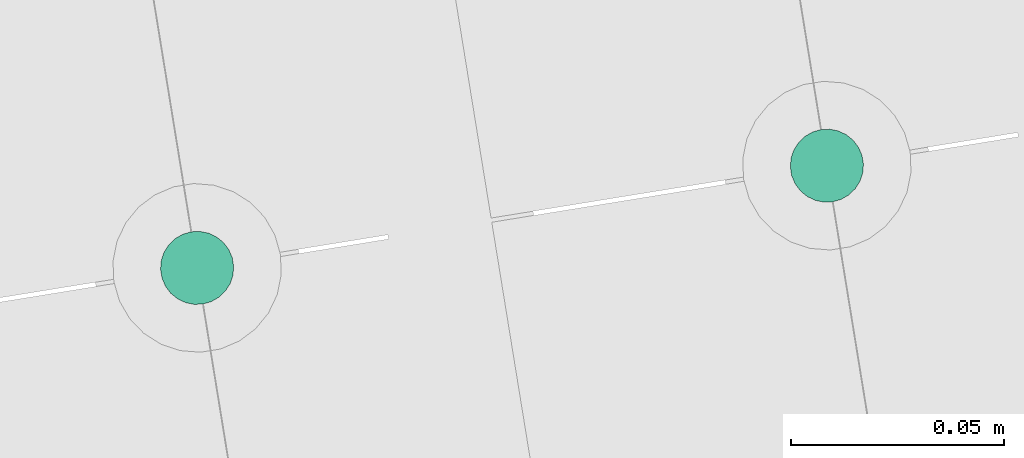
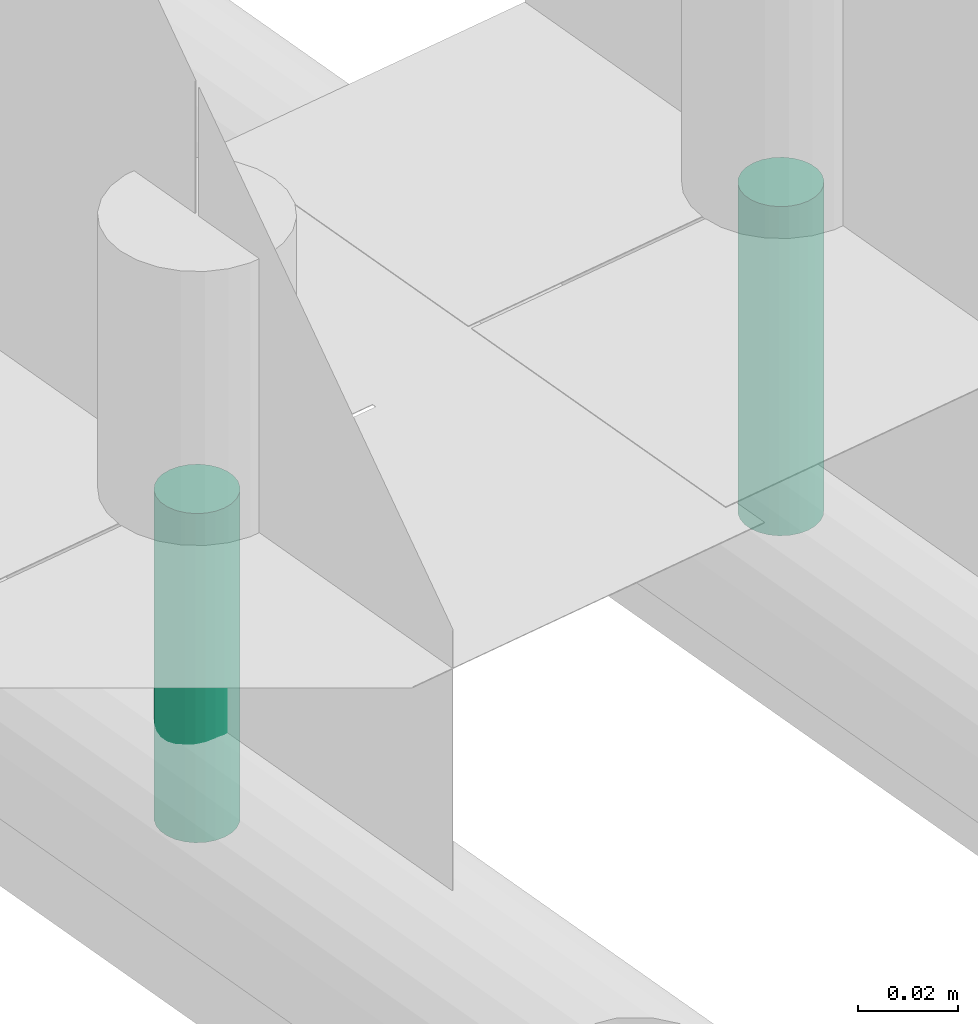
# One storey, part 8 of 10: 2 flow segments.
"""IFC2X3 building model written with IfcOpenShell, lengths in millimetres."""

from ifc_helpers import new_model, entity, si_unit, converted_unit, derived_unit, direction, frame, origin, origin_with_axes, origin_2d_with_axis, place, context, subcontext, project, spatial, circle, extrude, type_object, element, save


model = new_model("IFC2X3")

# Units and contexts
plan_context = context("Plan", 3, precision=1e-05, world=origin_with_axes())
model_context = context("Model", 3, precision=0.01, world=origin(), true_north=direction((6.12323399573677e-17, 1.0)))
body_context = subcontext(model_context, "Body", "Model", "MODEL_VIEW")
ifc_project = project(units=[converted_unit("PLANEANGLEUNIT", "DEGREE", entity("IfcPositiveLengthMeasure", 0.0174532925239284), si_unit("PLANEANGLEUNIT", "RADIAN"), dimensions=[0, 0, 0, 0, 0, 0, 0]), si_unit("AREAUNIT", "SQUARE_METRE"), si_unit("LENGTHUNIT", "METRE", prefix="MILLI"), si_unit("MASSUNIT", "GRAM", prefix="KILO"), si_unit("POWERUNIT", "WATT"), si_unit("PRESSUREUNIT", "PASCAL", prefix="KILO"), si_unit("FORCEUNIT", "NEWTON", prefix="KILO"), si_unit("ELECTRICVOLTAGEUNIT", "VOLT"), si_unit("ELECTRICCURRENTUNIT", "AMPERE"), si_unit("THERMODYNAMICTEMPERATUREUNIT", "DEGREE_CELSIUS"), si_unit("TIMEUNIT", "SECOND"), si_unit("VOLUMEUNIT", "CUBIC_METRE"), derived_unit("LINEARVELOCITYUNIT", [(si_unit("LENGTHUNIT", "METRE"), 1), (si_unit("TIMEUNIT", "SECOND"), -1)]), derived_unit("VOLUMETRICFLOWRATEUNIT", [(si_unit("VOLUMEUNIT", "CUBIC_METRE"), 1), (si_unit("TIMEUNIT", "SECOND"), -1)]), derived_unit("THERMALTRANSMITTANCEUNIT", [(si_unit("POWERUNIT", "WATT"), 1), (si_unit("THERMODYNAMICTEMPERATUREUNIT", "KELVIN"), -1), (si_unit("AREAUNIT", "SQUARE_METRE"), -1)]), derived_unit("SOUNDPRESSUREUNIT", [(si_unit("PRESSUREUNIT", "PASCAL"), 1)])], contexts=[model_context, plan_context])

# Site, building, storey
site_placement = place(None, frame((-0.00071070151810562, 0.00438415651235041, 0.0), z_axis=(0.0, 0.0, 1.0), x_axis=(-0.160236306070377, 0.987078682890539, 0.0)))
site = spatial("IfcSite", under=ifc_project, at=site_placement, Name="Default", CompositionType="ELEMENT")
building_placement = place(site_placement, origin_with_axes())
building = spatial("IfcBuilding", under=site, at=building_placement, CompositionType="ELEMENT")
storey_placement = place(building_placement, frame((0.0, 0.0, 58999.9999999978), z_axis=(0.0, 0.0, 1.0), x_axis=(1.0, 0.0, 0.0)))
storey = spatial("IfcBuildingStorey", under=building, at=storey_placement, Name="Nivå F", CompositionType="ELEMENT", Elevation=58999.9999999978)

# Flow segments
pipe_segment_type = type_object("IfcPipeSegmentType", Name="Pipe Types:Stålrør normaltykke", PredefinedType="NOTDEFINED")
flow_segment_1_placement = place(storey_placement, origin_with_axes())
element("IfcFlowSegment", 1, at=flow_segment_1_placement, inside=storey, type_object=pipe_segment_type, Name="Pipe Types:Stålrør normaltykke", ObjectType="Pipe Types:Stålrør normaltykke", context=body_context, shape_type="SweptSolid", body=[
    extrude(circle(Radius=8.60000039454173, at=origin_2d_with_axis()), frame((782467.397385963, -503074.454093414, 2826.00964185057)), (0.0, 0.0, 1.0), 79.9999999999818),
])
flow_segment_2_placement = place(storey_placement, origin_with_axes())
element("IfcFlowSegment", 2, at=flow_segment_2_placement, inside=storey, type_object=pipe_segment_type, Name="Pipe Types:Stålrør normaltykke", ObjectType="Pipe Types:Stålrør normaltykke", context=body_context, shape_type="SweptSolid", body=[
    extrude(circle(Radius=8.60000039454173, at=origin_2d_with_axis()), frame((782467.397385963, -502924.454093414, 2817.83070367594)), (0.0, 0.0, 1.0), 79.9999999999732),
])

save(model, "model.ifc")
